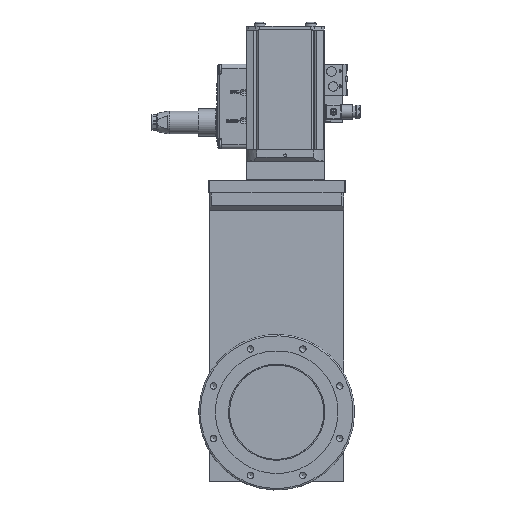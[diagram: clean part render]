
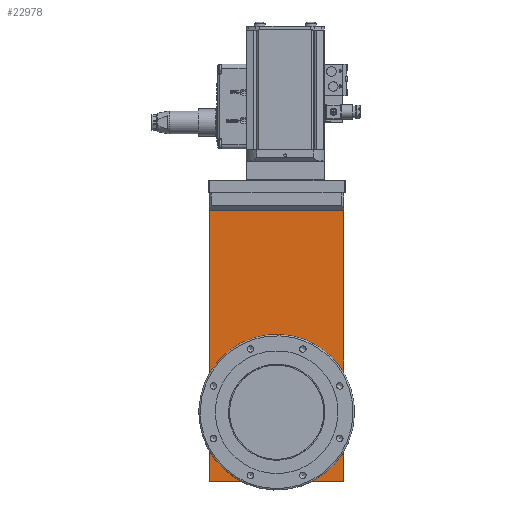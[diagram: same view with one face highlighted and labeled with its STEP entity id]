
A CAD part, top view. The second image highlights one B-rep face of the part: STEP entity #22978.
In plain terms, the highlighted planar face has unit normal (0, 0, 1).
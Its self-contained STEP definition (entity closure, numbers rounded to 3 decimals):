
#7779=LINE('',#84803,#12545);
#7786=LINE('',#84821,#12552);
#7787=LINE('',#84823,#12553);
#7792=LINE('',#84836,#12558);
#12545=VECTOR('',#69652,1.);
#12552=VECTOR('',#69667,1.);
#12553=VECTOR('',#69670,1.);
#12558=VECTOR('',#69683,1.);
#18305=PLANE('',#62559);
#22978=ADVANCED_FACE('',(#26401,#26402),#18305,.F.);
#26401=FACE_BOUND('',#28713,.T.);
#26402=FACE_BOUND('',#28714,.T.);
#28713=EDGE_LOOP('',(#34892));
#28714=EDGE_LOOP('',(#34893,#34894,#34895,#34896));
#34892=ORIENTED_EDGE('',*,*,#53827,.T.);
#34893=ORIENTED_EDGE('',*,*,#53811,.F.);
#34894=ORIENTED_EDGE('',*,*,#53820,.F.);
#34895=ORIENTED_EDGE('',*,*,#53828,.F.);
#34896=ORIENTED_EDGE('',*,*,#53821,.F.);
#48007=VERTEX_POINT('',#84802);
#48008=VERTEX_POINT('',#84804);
#48014=VERTEX_POINT('',#84820);
#48015=VERTEX_POINT('',#84824);
#48018=VERTEX_POINT('',#84835);
#53811=EDGE_CURVE('',#48007,#48008,#7779,.T.);
#53820=EDGE_CURVE('',#48014,#48007,#7786,.T.);
#53821=EDGE_CURVE('',#48008,#48015,#7787,.T.);
#53827=EDGE_CURVE('',#48018,#48018,#60070,.T.);
#53828=EDGE_CURVE('',#48015,#48014,#7792,.T.);
#60070=CIRCLE('',#62558,50.3);
#62558=AXIS2_PLACEMENT_3D('',#84834,#69681,#69682);
#62559=AXIS2_PLACEMENT_3D('',#84837,#69684,#69685);
#69652=DIRECTION('',(-1.,0.,0.));
#69667=DIRECTION('',(0.,-1.,0.));
#69670=DIRECTION('',(0.,1.,0.));
#69681=DIRECTION('',(0.,0.,-1.));
#69682=DIRECTION('',(-1.,0.,0.));
#69683=DIRECTION('',(1.,0.,0.));
#69684=DIRECTION('',(0.,0.,-1.));
#69685=DIRECTION('',(-1.,0.,0.));
#84802=CARTESIAN_POINT('',(71.15,-232.65,26.975));
#84803=CARTESIAN_POINT('',(0.,-232.65,26.975));
#84804=CARTESIAN_POINT('',(-71.15,-232.65,26.975));
#84820=CARTESIAN_POINT('',(71.15,73.05,26.975));
#84821=CARTESIAN_POINT('',(71.15,73.05,26.975));
#84823=CARTESIAN_POINT('',(-71.15,-234.1,26.975));
#84824=CARTESIAN_POINT('',(-71.15,73.05,26.975));
#84834=CARTESIAN_POINT('',(0.,0.,26.975));
#84835=CARTESIAN_POINT('',(-50.3,0.,26.975));
#84836=CARTESIAN_POINT('',(-71.15,73.05,26.975));
#84837=CARTESIAN_POINT('',(0.,0.,26.975));
